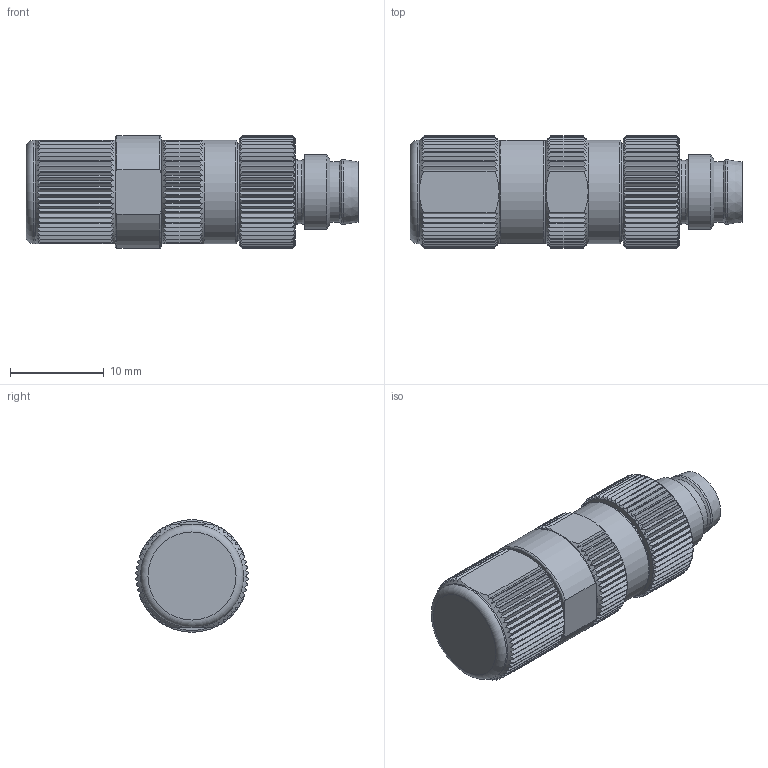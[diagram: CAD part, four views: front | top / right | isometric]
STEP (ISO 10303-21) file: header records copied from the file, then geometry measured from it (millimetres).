
FILE_DESCRIPTION( ( 'STEP AP203' ), '1' );
FILE_NAME( '//expscmdclustefs.cadenas.external/client_exchange/iodir/jobs/output/wkb80970916_no0/STEP/E11550_2_03.stp', ' ', ( ' ' ), ( ' ' ), 'PSStep 15.0.47', 'PARTsolutions', ' ' );
FILE_SCHEMA( ( 'CONFIG_CONTROL_DESIGN' ) );
Length unit declared in the file: millimetre
Products named in the file (1): _E11550
Bounding box: 35.4 x 11.99 x 12 mm (x, y, z)
Volume: 3144.5 mm3; surface area: 1843.1 mm2
Topology: 1 solids, 1 shells, 503 faces, 1456 edges, 963 vertices
Faces by surface type: plane 322, cylinder 158, cone 14, torus 9
Full cylindrical faces by diameter (mm): 5.8 x1, 6.5 x1, 6.8 x1, 6.9 x1, 8 x1, 10.3 x1, 11 x2
Entity records: 17422 total; most frequent: CARTESIAN_POINT 5136, ORIENTED_EDGE 2874, DIRECTION 2152, EDGE_CURVE 1437, VERTEX_POINT 963, AXIS2_PLACEMENT_3D 843, B_SPLINE_CURVE_WITH_KNOTS 632, EDGE_LOOP 530
